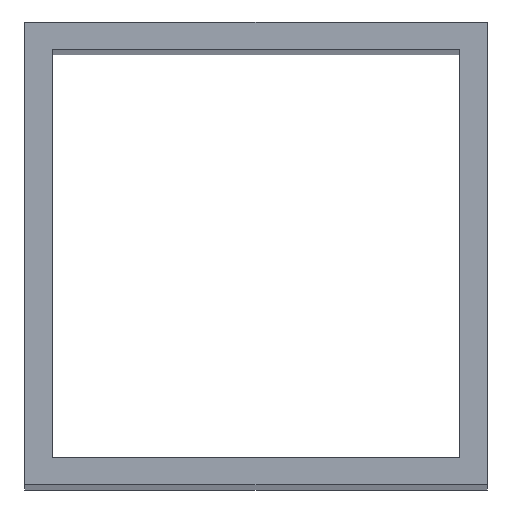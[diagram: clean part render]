
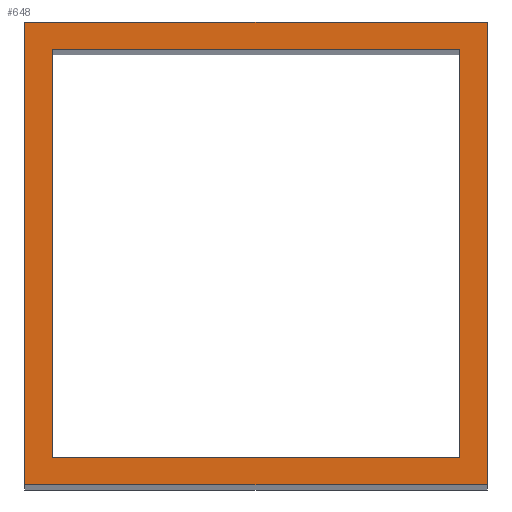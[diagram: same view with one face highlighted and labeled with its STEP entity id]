
A CAD part, top view. The second image highlights one B-rep face of the part: STEP entity #648.
In plain terms, the highlighted planar face has unit normal (0, 0, 1).
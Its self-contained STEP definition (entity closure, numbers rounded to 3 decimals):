
#24 = VERTEX_POINT('',#25);
#25 = CARTESIAN_POINT('',(-50.,-50.,630.));
#32 = PLANE('',#33);
#33 = AXIS2_PLACEMENT_3D('',#34,#35,#36);
#34 = CARTESIAN_POINT('',(-50.,-50.,0.));
#35 = DIRECTION('',(0.,1.,0.));
#36 = DIRECTION('',(1.,0.,0.));
#44 = PLANE('',#45);
#45 = AXIS2_PLACEMENT_3D('',#46,#47,#48);
#46 = CARTESIAN_POINT('',(-50.,50.,0.));
#47 = DIRECTION('',(1.,0.,-0.));
#48 = DIRECTION('',(0.,-1.,0.));
#56 = EDGE_CURVE('',#24,#57,#59,.T.);
#57 = VERTEX_POINT('',#58);
#58 = CARTESIAN_POINT('',(50.,-50.,630.));
#59 = SURFACE_CURVE('',#60,(#64,#71),.PCURVE_S1.);
#60 = LINE('',#61,#62);
#61 = CARTESIAN_POINT('',(-50.,-50.,630.));
#62 = VECTOR('',#63,1.);
#63 = DIRECTION('',(1.,0.,0.));
#64 = PCURVE('',#32,#65);
#65 = DEFINITIONAL_REPRESENTATION('',(#66),#70);
#66 = LINE('',#67,#68);
#67 = CARTESIAN_POINT('',(0.,-630.));
#68 = VECTOR('',#69,1.);
#69 = DIRECTION('',(1.,0.));
#70 = ( GEOMETRIC_REPRESENTATION_CONTEXT(2) 
PARAMETRIC_REPRESENTATION_CONTEXT() REPRESENTATION_CONTEXT('2D SPACE',''
  ) );
#71 = PCURVE('',#72,#77);
#72 = PLANE('',#73);
#73 = AXIS2_PLACEMENT_3D('',#74,#75,#76);
#74 = CARTESIAN_POINT('',(0.,0.,630.));
#75 = DIRECTION('',(0.,0.,1.));
#76 = DIRECTION('',(1.,0.,-0.));
#77 = DEFINITIONAL_REPRESENTATION('',(#78),#82);
#78 = LINE('',#79,#80);
#79 = CARTESIAN_POINT('',(-50.,-50.));
#80 = VECTOR('',#81,1.);
#81 = DIRECTION('',(1.,0.));
#82 = ( GEOMETRIC_REPRESENTATION_CONTEXT(2) 
PARAMETRIC_REPRESENTATION_CONTEXT() REPRESENTATION_CONTEXT('2D SPACE',''
  ) );
#100 = PLANE('',#101);
#101 = AXIS2_PLACEMENT_3D('',#102,#103,#104);
#102 = CARTESIAN_POINT('',(50.,-50.,0.));
#103 = DIRECTION('',(-1.,0.,0.));
#104 = DIRECTION('',(0.,1.,0.));
#142 = EDGE_CURVE('',#57,#143,#145,.T.);
#143 = VERTEX_POINT('',#144);
#144 = CARTESIAN_POINT('',(50.,50.,630.));
#145 = SURFACE_CURVE('',#146,(#150,#157),.PCURVE_S1.);
#146 = LINE('',#147,#148);
#147 = CARTESIAN_POINT('',(50.,-50.,630.));
#148 = VECTOR('',#149,1.);
#149 = DIRECTION('',(0.,1.,0.));
#150 = PCURVE('',#100,#151);
#151 = DEFINITIONAL_REPRESENTATION('',(#152),#156);
#152 = LINE('',#153,#154);
#153 = CARTESIAN_POINT('',(0.,-630.));
#154 = VECTOR('',#155,1.);
#155 = DIRECTION('',(1.,0.));
#156 = ( GEOMETRIC_REPRESENTATION_CONTEXT(2) 
PARAMETRIC_REPRESENTATION_CONTEXT() REPRESENTATION_CONTEXT('2D SPACE',''
  ) );
#157 = PCURVE('',#72,#158);
#158 = DEFINITIONAL_REPRESENTATION('',(#159),#163);
#159 = LINE('',#160,#161);
#160 = CARTESIAN_POINT('',(50.,-50.));
#161 = VECTOR('',#162,1.);
#162 = DIRECTION('',(0.,1.));
#163 = ( GEOMETRIC_REPRESENTATION_CONTEXT(2) 
PARAMETRIC_REPRESENTATION_CONTEXT() REPRESENTATION_CONTEXT('2D SPACE',''
  ) );
#181 = PLANE('',#182);
#182 = AXIS2_PLACEMENT_3D('',#183,#184,#185);
#183 = CARTESIAN_POINT('',(50.,50.,0.));
#184 = DIRECTION('',(0.,-1.,0.));
#185 = DIRECTION('',(-1.,0.,0.));
#218 = EDGE_CURVE('',#143,#219,#221,.T.);
#219 = VERTEX_POINT('',#220);
#220 = CARTESIAN_POINT('',(-50.,50.,630.));
#221 = SURFACE_CURVE('',#222,(#226,#233),.PCURVE_S1.);
#222 = LINE('',#223,#224);
#223 = CARTESIAN_POINT('',(50.,50.,630.));
#224 = VECTOR('',#225,1.);
#225 = DIRECTION('',(-1.,0.,0.));
#226 = PCURVE('',#181,#227);
#227 = DEFINITIONAL_REPRESENTATION('',(#228),#232);
#228 = LINE('',#229,#230);
#229 = CARTESIAN_POINT('',(0.,-630.));
#230 = VECTOR('',#231,1.);
#231 = DIRECTION('',(1.,0.));
#232 = ( GEOMETRIC_REPRESENTATION_CONTEXT(2) 
PARAMETRIC_REPRESENTATION_CONTEXT() REPRESENTATION_CONTEXT('2D SPACE',''
  ) );
#233 = PCURVE('',#72,#234);
#234 = DEFINITIONAL_REPRESENTATION('',(#235),#239);
#235 = LINE('',#236,#237);
#236 = CARTESIAN_POINT('',(50.,50.));
#237 = VECTOR('',#238,1.);
#238 = DIRECTION('',(-1.,0.));
#239 = ( GEOMETRIC_REPRESENTATION_CONTEXT(2) 
PARAMETRIC_REPRESENTATION_CONTEXT() REPRESENTATION_CONTEXT('2D SPACE',''
  ) );
#289 = EDGE_CURVE('',#219,#24,#290,.T.);
#290 = SURFACE_CURVE('',#291,(#295,#302),.PCURVE_S1.);
#291 = LINE('',#292,#293);
#292 = CARTESIAN_POINT('',(-50.,50.,630.));
#293 = VECTOR('',#294,1.);
#294 = DIRECTION('',(0.,-1.,0.));
#295 = PCURVE('',#44,#296);
#296 = DEFINITIONAL_REPRESENTATION('',(#297),#301);
#297 = LINE('',#298,#299);
#298 = CARTESIAN_POINT('',(0.,-630.));
#299 = VECTOR('',#300,1.);
#300 = DIRECTION('',(1.,0.));
#301 = ( GEOMETRIC_REPRESENTATION_CONTEXT(2) 
PARAMETRIC_REPRESENTATION_CONTEXT() REPRESENTATION_CONTEXT('2D SPACE',''
  ) );
#302 = PCURVE('',#72,#303);
#303 = DEFINITIONAL_REPRESENTATION('',(#304),#308);
#304 = LINE('',#305,#306);
#305 = CARTESIAN_POINT('',(-50.,50.));
#306 = VECTOR('',#307,1.);
#307 = DIRECTION('',(0.,-1.));
#308 = ( GEOMETRIC_REPRESENTATION_CONTEXT(2) 
PARAMETRIC_REPRESENTATION_CONTEXT() REPRESENTATION_CONTEXT('2D SPACE',''
  ) );
#338 = VERTEX_POINT('',#339);
#339 = CARTESIAN_POINT('',(-44.,-44.,630.));
#346 = PLANE('',#347);
#347 = AXIS2_PLACEMENT_3D('',#348,#349,#350);
#348 = CARTESIAN_POINT('',(-44.,-44.,0.));
#349 = DIRECTION('',(0.,1.,0.));
#350 = DIRECTION('',(1.,0.,0.));
#358 = PLANE('',#359);
#359 = AXIS2_PLACEMENT_3D('',#360,#361,#362);
#360 = CARTESIAN_POINT('',(-44.,44.,0.));
#361 = DIRECTION('',(1.,0.,-0.));
#362 = DIRECTION('',(0.,-1.,0.));
#370 = EDGE_CURVE('',#338,#371,#373,.T.);
#371 = VERTEX_POINT('',#372);
#372 = CARTESIAN_POINT('',(44.,-44.,630.));
#373 = SURFACE_CURVE('',#374,(#378,#385),.PCURVE_S1.);
#374 = LINE('',#375,#376);
#375 = CARTESIAN_POINT('',(-44.,-44.,630.));
#376 = VECTOR('',#377,1.);
#377 = DIRECTION('',(1.,0.,0.));
#378 = PCURVE('',#346,#379);
#379 = DEFINITIONAL_REPRESENTATION('',(#380),#384);
#380 = LINE('',#381,#382);
#381 = CARTESIAN_POINT('',(0.,-630.));
#382 = VECTOR('',#383,1.);
#383 = DIRECTION('',(1.,0.));
#384 = ( GEOMETRIC_REPRESENTATION_CONTEXT(2) 
PARAMETRIC_REPRESENTATION_CONTEXT() REPRESENTATION_CONTEXT('2D SPACE',''
  ) );
#385 = PCURVE('',#72,#386);
#386 = DEFINITIONAL_REPRESENTATION('',(#387),#391);
#387 = LINE('',#388,#389);
#388 = CARTESIAN_POINT('',(-44.,-44.));
#389 = VECTOR('',#390,1.);
#390 = DIRECTION('',(1.,0.));
#391 = ( GEOMETRIC_REPRESENTATION_CONTEXT(2) 
PARAMETRIC_REPRESENTATION_CONTEXT() REPRESENTATION_CONTEXT('2D SPACE',''
  ) );
#409 = PLANE('',#410);
#410 = AXIS2_PLACEMENT_3D('',#411,#412,#413);
#411 = CARTESIAN_POINT('',(44.,-44.,0.));
#412 = DIRECTION('',(-1.,0.,0.));
#413 = DIRECTION('',(0.,1.,0.));
#446 = EDGE_CURVE('',#371,#447,#449,.T.);
#447 = VERTEX_POINT('',#448);
#448 = CARTESIAN_POINT('',(44.,44.,630.));
#449 = SURFACE_CURVE('',#450,(#454,#461),.PCURVE_S1.);
#450 = LINE('',#451,#452);
#451 = CARTESIAN_POINT('',(44.,-44.,630.));
#452 = VECTOR('',#453,1.);
#453 = DIRECTION('',(0.,1.,0.));
#454 = PCURVE('',#409,#455);
#455 = DEFINITIONAL_REPRESENTATION('',(#456),#460);
#456 = LINE('',#457,#458);
#457 = CARTESIAN_POINT('',(0.,-630.));
#458 = VECTOR('',#459,1.);
#459 = DIRECTION('',(1.,0.));
#460 = ( GEOMETRIC_REPRESENTATION_CONTEXT(2) 
PARAMETRIC_REPRESENTATION_CONTEXT() REPRESENTATION_CONTEXT('2D SPACE',''
  ) );
#461 = PCURVE('',#72,#462);
#462 = DEFINITIONAL_REPRESENTATION('',(#463),#467);
#463 = LINE('',#464,#465);
#464 = CARTESIAN_POINT('',(44.,-44.));
#465 = VECTOR('',#466,1.);
#466 = DIRECTION('',(0.,1.));
#467 = ( GEOMETRIC_REPRESENTATION_CONTEXT(2) 
PARAMETRIC_REPRESENTATION_CONTEXT() REPRESENTATION_CONTEXT('2D SPACE',''
  ) );
#485 = PLANE('',#486);
#486 = AXIS2_PLACEMENT_3D('',#487,#488,#489);
#487 = CARTESIAN_POINT('',(44.,44.,0.));
#488 = DIRECTION('',(0.,-1.,0.));
#489 = DIRECTION('',(-1.,0.,0.));
#522 = EDGE_CURVE('',#447,#523,#525,.T.);
#523 = VERTEX_POINT('',#524);
#524 = CARTESIAN_POINT('',(-44.,44.,630.));
#525 = SURFACE_CURVE('',#526,(#530,#537),.PCURVE_S1.);
#526 = LINE('',#527,#528);
#527 = CARTESIAN_POINT('',(44.,44.,630.));
#528 = VECTOR('',#529,1.);
#529 = DIRECTION('',(-1.,0.,0.));
#530 = PCURVE('',#485,#531);
#531 = DEFINITIONAL_REPRESENTATION('',(#532),#536);
#532 = LINE('',#533,#534);
#533 = CARTESIAN_POINT('',(0.,-630.));
#534 = VECTOR('',#535,1.);
#535 = DIRECTION('',(1.,0.));
#536 = ( GEOMETRIC_REPRESENTATION_CONTEXT(2) 
PARAMETRIC_REPRESENTATION_CONTEXT() REPRESENTATION_CONTEXT('2D SPACE',''
  ) );
#537 = PCURVE('',#72,#538);
#538 = DEFINITIONAL_REPRESENTATION('',(#539),#543);
#539 = LINE('',#540,#541);
#540 = CARTESIAN_POINT('',(44.,44.));
#541 = VECTOR('',#542,1.);
#542 = DIRECTION('',(-1.,0.));
#543 = ( GEOMETRIC_REPRESENTATION_CONTEXT(2) 
PARAMETRIC_REPRESENTATION_CONTEXT() REPRESENTATION_CONTEXT('2D SPACE',''
  ) );
#593 = EDGE_CURVE('',#523,#338,#594,.T.);
#594 = SURFACE_CURVE('',#595,(#599,#606),.PCURVE_S1.);
#595 = LINE('',#596,#597);
#596 = CARTESIAN_POINT('',(-44.,44.,630.));
#597 = VECTOR('',#598,1.);
#598 = DIRECTION('',(0.,-1.,0.));
#599 = PCURVE('',#358,#600);
#600 = DEFINITIONAL_REPRESENTATION('',(#601),#605);
#601 = LINE('',#602,#603);
#602 = CARTESIAN_POINT('',(0.,-630.));
#603 = VECTOR('',#604,1.);
#604 = DIRECTION('',(1.,0.));
#605 = ( GEOMETRIC_REPRESENTATION_CONTEXT(2) 
PARAMETRIC_REPRESENTATION_CONTEXT() REPRESENTATION_CONTEXT('2D SPACE',''
  ) );
#606 = PCURVE('',#72,#607);
#607 = DEFINITIONAL_REPRESENTATION('',(#608),#612);
#608 = LINE('',#609,#610);
#609 = CARTESIAN_POINT('',(-44.,44.));
#610 = VECTOR('',#611,1.);
#611 = DIRECTION('',(0.,-1.));
#612 = ( GEOMETRIC_REPRESENTATION_CONTEXT(2) 
PARAMETRIC_REPRESENTATION_CONTEXT() REPRESENTATION_CONTEXT('2D SPACE',''
  ) );
#648 = ADVANCED_FACE('',(#649,#655),#72,.T.);
#649 = FACE_BOUND('',#650,.T.);
#650 = EDGE_LOOP('',(#651,#652,#653,#654));
#651 = ORIENTED_EDGE('',*,*,#56,.T.);
#652 = ORIENTED_EDGE('',*,*,#142,.T.);
#653 = ORIENTED_EDGE('',*,*,#218,.T.);
#654 = ORIENTED_EDGE('',*,*,#289,.T.);
#655 = FACE_BOUND('',#656,.F.);
#656 = EDGE_LOOP('',(#657,#658,#659,#660));
#657 = ORIENTED_EDGE('',*,*,#370,.T.);
#658 = ORIENTED_EDGE('',*,*,#446,.T.);
#659 = ORIENTED_EDGE('',*,*,#522,.T.);
#660 = ORIENTED_EDGE('',*,*,#593,.T.);
